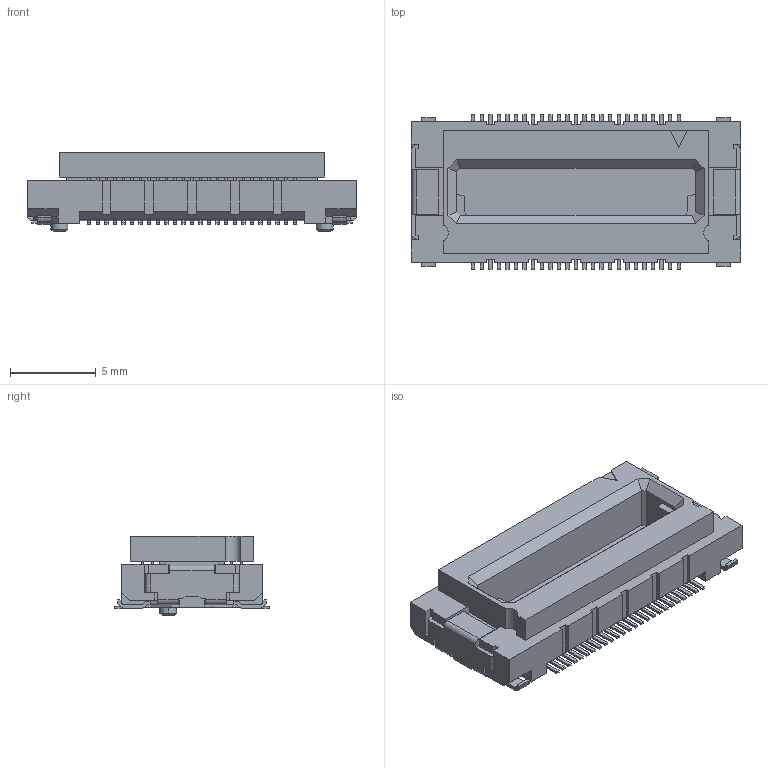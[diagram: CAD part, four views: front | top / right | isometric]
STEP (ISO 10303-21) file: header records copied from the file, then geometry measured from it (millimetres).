
FILE_DESCRIPTION(('Creo Elements/Direct Modeling STEP Export'),'2;1');
FILE_NAME('P3A287_DY01-050S.stp','2017-08-10T14:28:25',(''),(''),'Creo Elements/Direct Modeling STEP processor for AP214 (Solid Model)','Creo Elements/Direct Modeling 19.0F 14-Feb-2017 (C) Parametric Technology GmbH','');
FILE_SCHEMA(('AUTOMOTIVE_DESIGN { 1 0 10303 214 1 1 1 1 }'));
Length unit declared in the file: millimetre
Products named in the file (2): DY01-050S
Assembly tree (1 placements, depth 2):
  DY01-050S
    DY01-050S
Bounding box: 19.2 x 9 x 4.65 mm (x, y, z)
Volume: 404.6 mm3; surface area: 870.6 mm2
Topology: 1 solids, 1 shells, 1669 faces, 4673 edges, 3110 vertices
Faces by surface type: plane 1416, cylinder 249, cone 4
Entity records: 53099 total; most frequent: CARTESIAN_POINT 9373, ORIENTED_EDGE 9346, DIRECTION 8413, EDGE_CURVE 4673, VECTOR 4113, LINE 4113, VERTEX_POINT 3110, AXIS2_PLACEMENT_3D 2150
